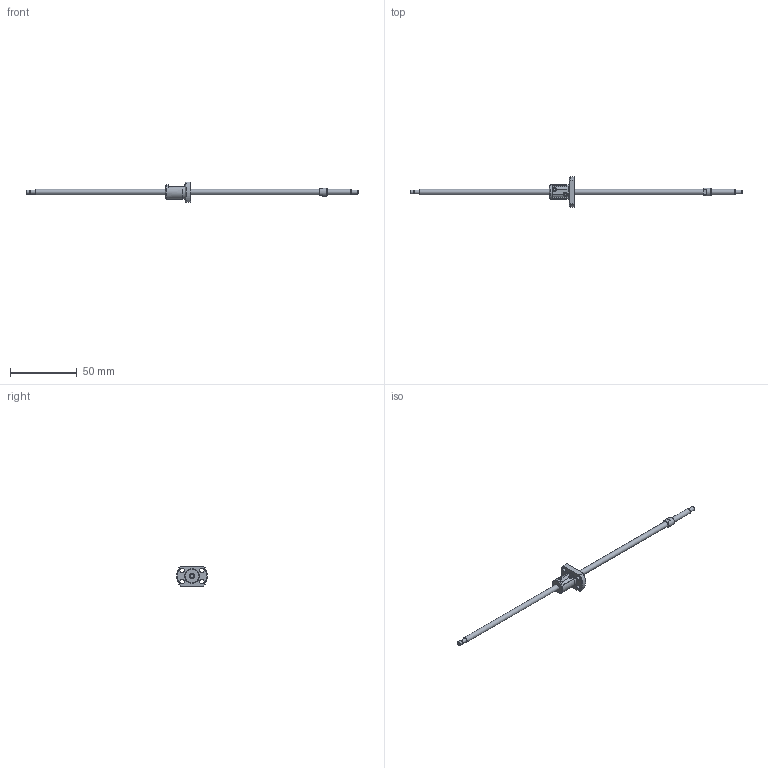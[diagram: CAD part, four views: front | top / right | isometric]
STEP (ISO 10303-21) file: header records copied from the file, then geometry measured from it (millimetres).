
FILE_DESCRIPTION(/* description */ ('STEP AP214'),/* implementation_level */ '2;1');
FILE_NAME(/* name */ 'SRT0402-209R249C7B0X(97.5Processing)',/* time_stamp */ '2026-08-04T17:50:49+02:00',/* author */ ('License CC BY-ND 4.0'),/* organization */ ('CADENAS'),/* preprocessor_version */ 'ST-DEVELOPER v20',/* originating_system */ 'PARTsolutions',/* authorisation */ ' ');
FILE_SCHEMA (('AUTOMOTIVE_DESIGN {1 0 10303 214 3 1 1}'));
Length unit declared in the file: millimetre
Products named in the file (3): SRT0402-209R249C7B0X(97.5Processing); SRT0402-209R275BCt7Processing6Shaft; SRT0402Nut
Assembly tree (2 placements, depth 2):
  SRT0402-209R249C7B0X(97.5Processing)
    SRT0402-209R275BCt7Processing6Shaft
    SRT0402Nut
Bounding box: 249 x 22.93 x 15 mm (x, y, z)
Volume: 5309.4 mm3; surface area: 4923.8 mm2
Topology: 2 solids, 2 shells, 66 faces, 162 edges, 107 vertices
Faces by surface type: plane 33, cylinder 20, cone 12, torus 1
Full cylindrical faces by diameter (mm): 1 x2, 2.7 x1, 3 x3, 3.4 x4, 4 x3, 6 x1, 10.6 x1, 11 x1
Entity records: 1851 total; most frequent: CARTESIAN_POINT 349, DIRECTION 308, ORIENTED_EDGE 248, AXIS2_PLACEMENT_3D 133, EDGE_CURVE 124, FACE_BOUND 110, EDGE_LOOP 108, VERTEX_POINT 96
